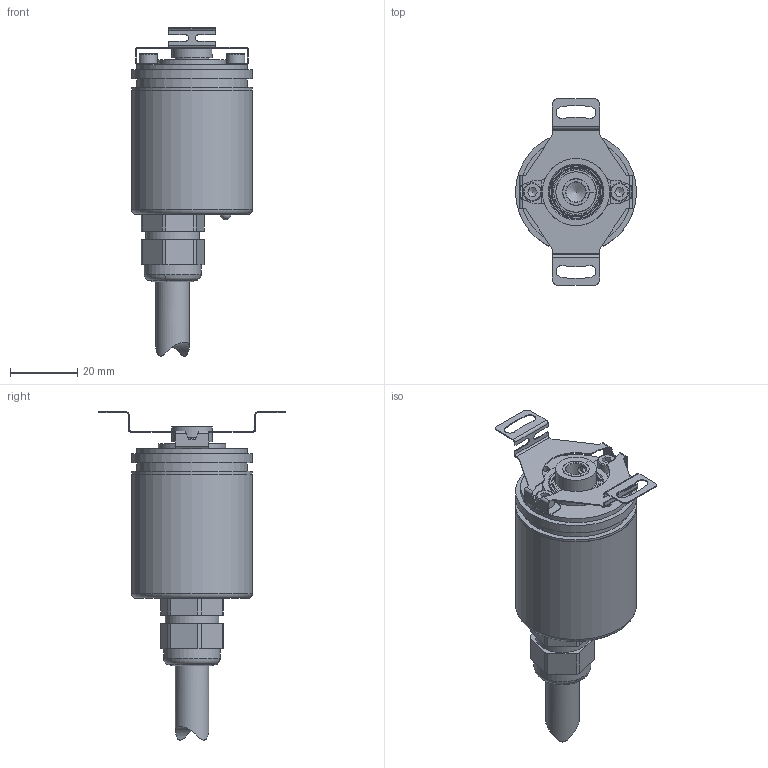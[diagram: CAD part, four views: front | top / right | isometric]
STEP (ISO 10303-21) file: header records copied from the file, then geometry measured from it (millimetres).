
FILE_DESCRIPTION (( 'STEP AP203' ), '1' );
FILE_NAME ('HTx36E H_PG_axial.STEP', '2021-06-09T17:03:17', ( '' ), ( '' ), 'SwSTEP 2.0', 'SolidWorks 2019', '' );
FILE_SCHEMA (( 'CONFIG_CONTROL_DESIGN' ));
Length unit declared in the file: millimetre
Products named in the file (1): HTx36E H_PG_axial
Bounding box: 36 x 55.4 x 97.67 mm (x, y, z)
Volume: 23068 mm3; surface area: 27285.3 mm2
Topology: 37 solids, 37 shells, 430 faces, 977 edges, 597 vertices
Faces by surface type: plane 183, cylinder 144, cone 42, torus 35, sphere 19, bspline 7
Full cylindrical faces by diameter (mm): 2.459 x7, 2.5 x1, 2.6 x1, 3 x2, 3.4 x1, 3.5 x2, 5.5 x2, 6 x1, 7.6 x1, 8 x4, 8.1 x1, 9.5 x8, 10 x3, 10.1 x4, 12 x1, 13.5 x1, 14 x4, 14.5 x8, 15 x1, 15.2 x1, 15.85 x1, 16 x7, 17 x1, 20 x1, 31.6 x1, 32 x1, 33 x2, 33.2 x1, 34 x3, 36 x3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
Entity records: 12361 total; most frequent: CARTESIAN_POINT 3758, DIRECTION 1857, ORIENTED_EDGE 1456, AXIS2_PLACEMENT_3D 749, EDGE_CURVE 728, EDGE_LOOP 611, VERTEX_POINT 519, FACE_OUTER_BOUND 511
